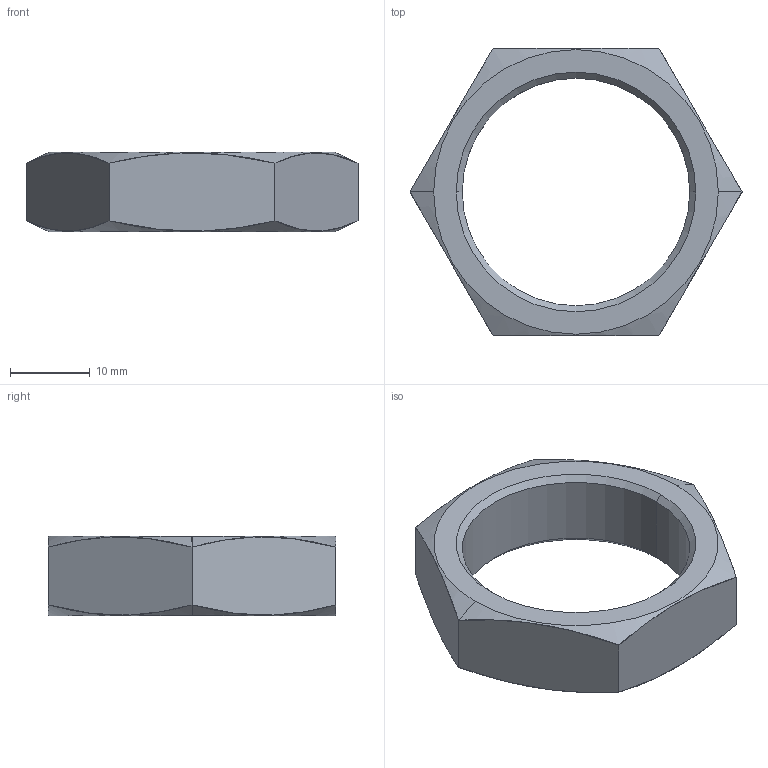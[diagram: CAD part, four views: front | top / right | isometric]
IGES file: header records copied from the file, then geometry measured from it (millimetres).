
Start section:  PTC IGES file: R412027809\r412027809.iges
Global section: file name: R412027809\r412027809.iges; native system: Creo Parametric by PTC Inc.; preprocessor: 2023092; author: GND7HC; organization: Unknown; date: 20241118.112431; units: millimetre
Bounding box: 41.57 x 36 x 10 mm (x, y, z)
Surface area: 2927.9 mm2 (no closed solid volume)
Topology: 0 solids, 0 shells, 18 faces, 80 edges, 80 vertices
Faces by surface type: revolution 10, bspline 8
